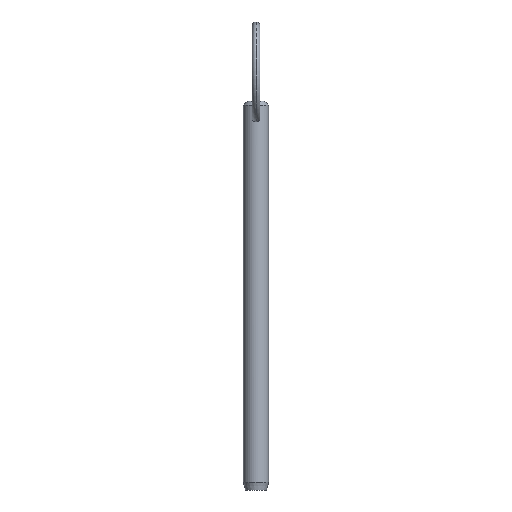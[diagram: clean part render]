
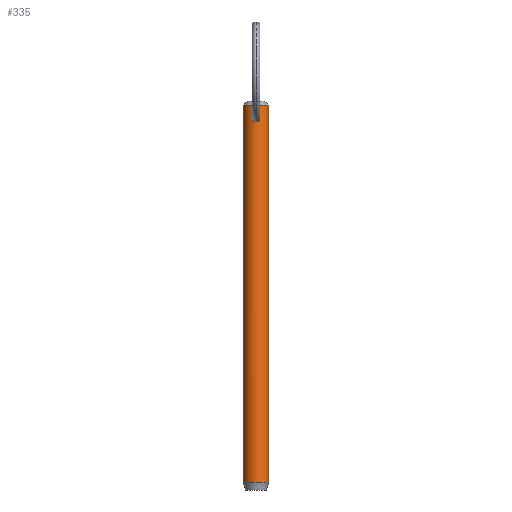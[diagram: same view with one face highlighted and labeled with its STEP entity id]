
A CAD part, front view. The second image highlights one B-rep face of the part: STEP entity #335.
In plain terms, the highlighted cylindrical face has radius 3.175 mm (diameter 6.35 mm), a partial arc.
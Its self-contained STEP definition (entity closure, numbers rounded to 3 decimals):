
#13 = CARTESIAN_POINT ( 'NONE',  ( -0.882, -3.055, 85.76 ) ) ;
#16 = CARTESIAN_POINT ( 'NONE',  ( -0.983, -3.02, 84.959 ) ) ;
#22 = CARTESIAN_POINT ( 'NONE',  ( 0.134, -3.175, 86.282 ) ) ;
#31 = DIRECTION ( 'NONE',  ( -1., 0., 0. ) ) ;
#32 = CARTESIAN_POINT ( 'NONE',  ( 0.628, -3.114, 84.404 ) ) ;
#35 = CARTESIAN_POINT ( 'NONE',  ( -3.175, 0., 88.38 ) ) ;
#48 = DIRECTION ( 'NONE',  ( 0., 0., -1. ) ) ;
#56 = CARTESIAN_POINT ( 'NONE',  ( -0.269, -3.166, 84.229 ) ) ;
#57 = CARTESIAN_POINT ( 'NONE',  ( 0., -3.175, 84.203 ) ) ;
#58 = CARTESIAN_POINT ( 'NONE',  ( -0.615, -3.116, 86.053 ) ) ;
#63 = CARTESIAN_POINT ( 'NONE',  ( 0.269, -3.166, 86.25 ) ) ;
#72 = B_SPLINE_CURVE_WITH_KNOTS ( 'NONE', 3,
 ( #250, #22, #63, #404, #220, #73, #475, #292, #105, #372, #407, #32, #182, #102, #176, #442 ),
 .UNSPECIFIED., .F., .F.,
 ( 4, 2, 2, 2, 2, 2, 2, 4 ),
 ( 0.003, 0.003, 0.004, 0.004, 0.005, 0.005, 0.006, 0.006 ),
 .UNSPECIFIED. ) ;
#73 = CARTESIAN_POINT ( 'NONE',  ( 0.884, -3.055, 85.757 ) ) ;
#79 = CARTESIAN_POINT ( 'NONE',  ( 3.175, 0., 83.8 ) ) ;
#87 = CARTESIAN_POINT ( 'NONE',  ( -3.175, 0., -5.92 ) ) ;
#95 = CARTESIAN_POINT ( 'NONE',  ( 0., -3.175, 86.282 ) ) ;
#101 = EDGE_LOOP ( 'NONE', ( #338, #310 ) ) ;
#102 = CARTESIAN_POINT ( 'NONE',  ( 0.268, -3.166, 84.229 ) ) ;
#105 = CARTESIAN_POINT ( 'NONE',  ( 0.982, -3.02, 84.958 ) ) ;
#115 = CARTESIAN_POINT ( 'NONE',  ( 3.175, 0., 88.38 ) ) ;
#127 = CARTESIAN_POINT ( 'NONE',  ( 0., 0., 88.38 ) ) ;
#141 = EDGE_CURVE ( 'NONE', #350, #446, #72, .T. ) ;
#160 = VECTOR ( 'NONE', #411, 1000. ) ;
#164 = EDGE_CURVE ( 'NONE', #206, #295, #259, .T. ) ;
#165 = CARTESIAN_POINT ( 'NONE',  ( -0.328, -3.159, 86.221 ) ) ;
#166 = CIRCLE ( 'NONE', #267, 3.175 ) ;
#172 = CARTESIAN_POINT ( 'NONE',  ( -0.888, -3.049, 84.709 ) ) ;
#176 = CARTESIAN_POINT ( 'NONE',  ( 0.134, -3.175, 84.203 ) ) ;
#182 = CARTESIAN_POINT ( 'NONE',  ( 0.515, -3.135, 84.33 ) ) ;
#183 = CARTESIAN_POINT ( 'NONE',  ( 0., -3.175, 86.282 ) ) ;
#188 = CARTESIAN_POINT ( 'NONE',  ( 0., 0., 83.8 ) ) ;
#190 = B_SPLINE_CURVE_WITH_KNOTS ( 'NONE', 3,
 ( #57, #237, #56, #426, #242, #282, #172, #16, #240, #358, #13, #58, #318, #165, #354, #284, #209, #95 ),
 .UNSPECIFIED., .F., .F.,
 ( 4, 2, 2, 2, 2, 2, 2, 2, 4 ),
 ( 0.006, 0.006, 0.007, 0.007, 0.008, 0.008, 0.009, 0.009, 0.009 ),
 .UNSPECIFIED. ) ;
#196 = ORIENTED_EDGE ( 'NONE', *, *, #245, .T. ) ;
#198 = FACE_OUTER_BOUND ( 'NONE', #199, .T. ) ;
#199 = EDGE_LOOP ( 'NONE', ( #376, #369, #196, #332 ) ) ;
#204 = CARTESIAN_POINT ( 'NONE',  ( 0., -3.175, 84.203 ) ) ;
#206 = VERTEX_POINT ( 'NONE', #115 ) ;
#209 = CARTESIAN_POINT ( 'NONE',  ( -0.067, -3.175, 86.282 ) ) ;
#213 = DIRECTION ( 'NONE',  ( 0., 0., 1. ) ) ;
#220 = CARTESIAN_POINT ( 'NONE',  ( 0.617, -3.116, 86.051 ) ) ;
#225 = DIRECTION ( 'NONE',  ( 0., 0., -1. ) ) ;
#232 = AXIS2_PLACEMENT_3D ( 'NONE', #127, #48, #397 ) ;
#237 = CARTESIAN_POINT ( 'NONE',  ( -0.134, -3.175, 84.203 ) ) ;
#240 = CARTESIAN_POINT ( 'NONE',  ( -1.004, -3.012, 85.095 ) ) ;
#242 = CARTESIAN_POINT ( 'NONE',  ( -0.629, -3.114, 84.405 ) ) ;
#245 = EDGE_CURVE ( 'NONE', #357, #388, #287, .T. ) ;
#250 = CARTESIAN_POINT ( 'NONE',  ( 0., -3.175, 86.282 ) ) ;
#253 = CYLINDRICAL_SURFACE ( 'NONE', #390, 3.175 ) ;
#259 = LINE ( 'NONE', #79, #160 ) ;
#262 = EDGE_CURVE ( 'NONE', #206, #357, #470, .T. ) ;
#267 = AXIS2_PLACEMENT_3D ( 'NONE', #435, #213, #410 ) ;
#282 = CARTESIAN_POINT ( 'NONE',  ( -0.815, -3.07, 84.595 ) ) ;
#284 = CARTESIAN_POINT ( 'NONE',  ( -0.133, -3.173, 86.274 ) ) ;
#287 = LINE ( 'NONE', #300, #427 ) ;
#292 = CARTESIAN_POINT ( 'NONE',  ( 1.004, -3.012, 85.093 ) ) ;
#295 = VERTEX_POINT ( 'NONE', #380 ) ;
#300 = CARTESIAN_POINT ( 'NONE',  ( -3.175, 0., 83.8 ) ) ;
#303 = EDGE_CURVE ( 'NONE', #388, #295, #166, .T. ) ;
#310 = ORIENTED_EDGE ( 'NONE', *, *, #443, .T. ) ;
#318 = CARTESIAN_POINT ( 'NONE',  ( -0.508, -3.136, 86.135 ) ) ;
#332 = ORIENTED_EDGE ( 'NONE', *, *, #303, .T. ) ;
#335 = ADVANCED_FACE ( 'NONE', ( #198, #393 ), #253, .T. ) ;
#338 = ORIENTED_EDGE ( 'NONE', *, *, #141, .T. ) ;
#350 = VERTEX_POINT ( 'NONE', #183 ) ;
#354 = CARTESIAN_POINT ( 'NONE',  ( -0.264, -3.165, 86.244 ) ) ;
#357 = VERTEX_POINT ( 'NONE', #35 ) ;
#358 = CARTESIAN_POINT ( 'NONE',  ( -0.991, -3.016, 85.496 ) ) ;
#369 = ORIENTED_EDGE ( 'NONE', *, *, #262, .T. ) ;
#372 = CARTESIAN_POINT ( 'NONE',  ( 0.888, -3.049, 84.709 ) ) ;
#376 = ORIENTED_EDGE ( 'NONE', *, *, #164, .F. ) ;
#380 = CARTESIAN_POINT ( 'NONE',  ( 3.175, 0., -5.92 ) ) ;
#388 = VERTEX_POINT ( 'NONE', #87 ) ;
#390 = AXIS2_PLACEMENT_3D ( 'NONE', #188, #480, #31 ) ;
#393 = FACE_BOUND ( 'NONE', #101, .T. ) ;
#397 = DIRECTION ( 'NONE',  ( 1., 0., 0. ) ) ;
#404 = CARTESIAN_POINT ( 'NONE',  ( 0.51, -3.136, 86.134 ) ) ;
#407 = CARTESIAN_POINT ( 'NONE',  ( 0.815, -3.07, 84.595 ) ) ;
#410 = DIRECTION ( 'NONE',  ( -1., 0., 0. ) ) ;
#411 = DIRECTION ( 'NONE',  ( 0., 0., -1. ) ) ;
#426 = CARTESIAN_POINT ( 'NONE',  ( -0.516, -3.135, 84.331 ) ) ;
#427 = VECTOR ( 'NONE', #225, 1000. ) ;
#435 = CARTESIAN_POINT ( 'NONE',  ( 0., 0., -5.92 ) ) ;
#442 = CARTESIAN_POINT ( 'NONE',  ( 0., -3.175, 84.203 ) ) ;
#443 = EDGE_CURVE ( 'NONE', #446, #350, #190, .T. ) ;
#446 = VERTEX_POINT ( 'NONE', #204 ) ;
#470 = CIRCLE ( 'NONE', #232, 3.175 ) ;
#475 = CARTESIAN_POINT ( 'NONE',  ( 0.992, -3.016, 85.494 ) ) ;
#480 = DIRECTION ( 'NONE',  ( 0., 0., -1. ) ) ;
